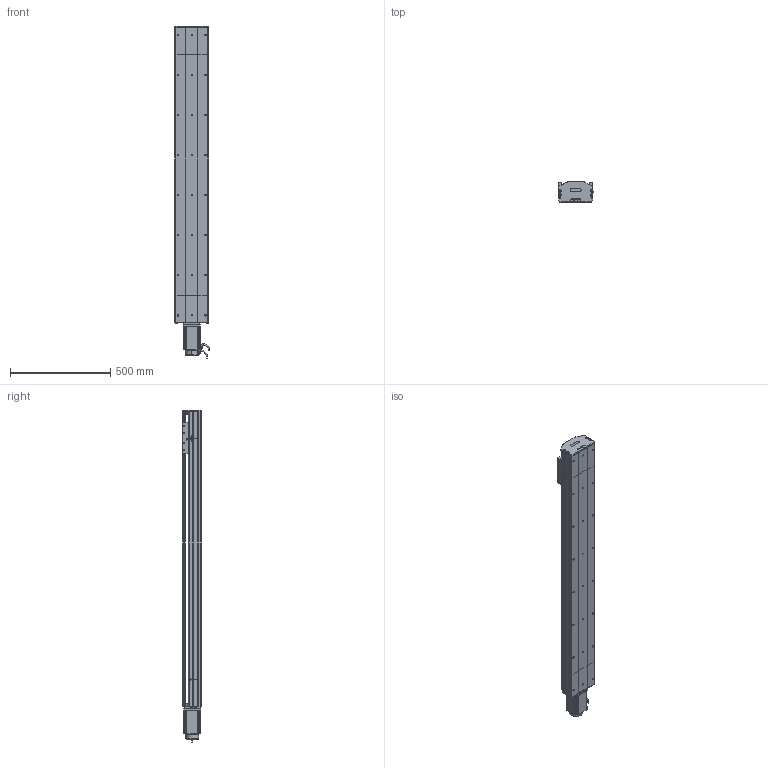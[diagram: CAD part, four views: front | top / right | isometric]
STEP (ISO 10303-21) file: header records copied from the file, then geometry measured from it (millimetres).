
FILE_DESCRIPTION (( 'STEP AP214' ), '1' );
FILE_NAME ('D17 TSH MD S1200.STEP', '2010-06-30T07:22:23', ( 'Christophe Gaillard' ), ( 'SGA' ), 'SwSTEP 2.0', 'SolidWorks 2010', '' );
FILE_SCHEMA (( 'AUTOMOTIVE_DESIGN' ));
Length unit declared in the file: millimetre
Products named in the file (31): corp D17 1200_Default; Vis M5 L16-2_Default; Chariot D17; arbre + rail D17 Course 1200 ; couvercle D17 course L1200_Default; Conecteur_Default; Conecteur2_Default; codeur 90BLDC125-640; corps 90BLDC125A-640; avant 90BLDC125A-640; Tail D17_Default; Moteur motionking 90BLDC125A-640; chariot D17S_Default; vis M5 L5_Default; corpl tail D17_Default; Arbre+rail head D17; plaque de  bout head D17_Default; plaque de  bout tail D17_Default; couvercle D17 head_Default; tete d''axe haut D17; tete d''axe bas D17; corpl head D17 MD_Default; head MD_Default; Arbre+rail tail D17; vis M5 L8 90°_Default; vis M5 L25_Default; couvercle D17_Default; vis M5 L12_Default; guide D17; course 1200 D17_Default; D17 TSH MD S1200
Assembly tree (50 placements, depth 4):
  D17 TSH MD S1200
    course 1200 D17_Default
      corp D17 1200_Default
      couvercle D17 course L1200_Default
      arbre + rail D17 Course 1200 
    head MD_Default
      Moteur motionking 90BLDC125A-640
        corps 90BLDC125A-640
        avant 90BLDC125A-640
        Conecteur_Default
        Conecteur2_Default
        codeur 90BLDC125-640
      vis M5 L12_Default  x6
      Vis M5 L16-2_Default  x4
      plaque de  bout head D17_Default
      vis M5 L5_Default  x2
      Arbre+rail head D17
      couvercle D17 head_Default
      corpl head D17 MD_Default
    Tail D17_Default
      couvercle D17_Default
      vis M5 L25_Default  x2
      vis M5 L8 90°_Default  x2
      plaque de  bout tail D17_Default
      vis M5 L12_Default  x4
      tete d''axe haut D17
      corpl tail D17_Default
      tete d''axe bas D17
      Arbre+rail tail D17
    chariot D17S_Default
      guide D17  x2
      Chariot D17
      vis M5 L12_Default  x4
Bounding box: 174.95 x 99.7 x 1657.5 mm (x, y, z)
Volume: 9375029.3 mm3; surface area: 2413848.4 mm2
Topology: 75 solids, 75 shells, 2130 faces, 5425 edges, 3516 vertices
Faces by surface type: plane 1319, cylinder 562, bspline 136, torus 57, cone 56
Entity records: 71559 total; most frequent: CARTESIAN_POINT 22586, ORIENTED_EDGE 8666, DIRECTION 8022, EDGE_CURVE 4333, VECTOR 3006, LINE 3006, VERTEX_POINT 2852, AXIS2_PLACEMENT_3D 2508
